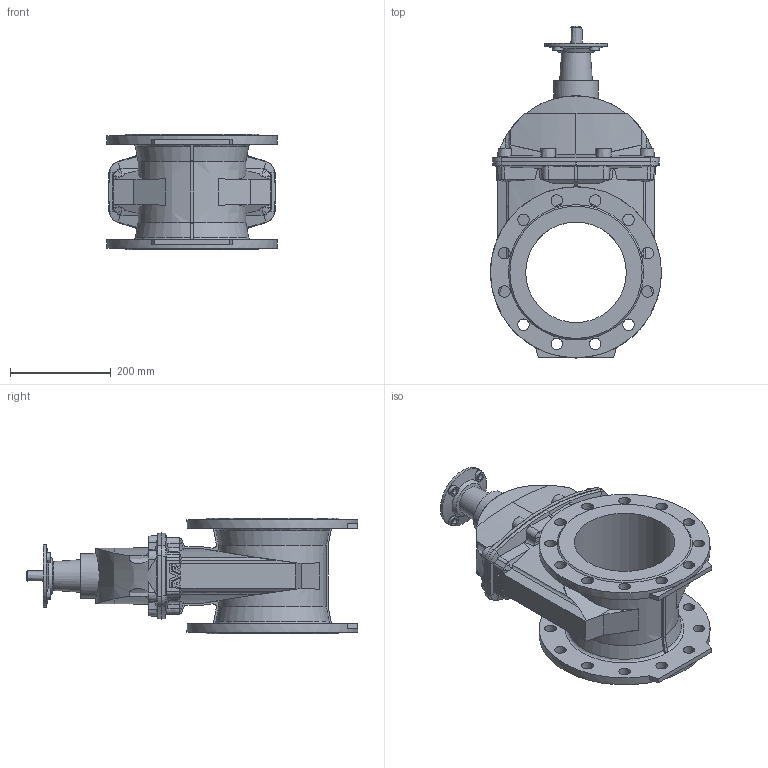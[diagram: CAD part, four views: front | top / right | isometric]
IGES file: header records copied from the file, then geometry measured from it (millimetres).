
Start section: SolidWorks IGES file using analytic representation for surfaces
Global section: file name: \\avksan2\techshare\PBM outline export from Enovia\O_15_42_DN200_X1XXX099_AA0.igs; native system: SolidWorks 2012; preprocessor: SolidWorks 2012; author: pbm; date: 170310.094417; units: inch
Bounding box: 340 x 660 x 230 mm (x, y, z)
Surface area: 855735.1 mm2 (no closed solid volume)
Topology: 0 solids, 0 shells, 399 faces, 2218 edges, 2117 vertices
Faces by surface type: revolution 228, bspline 171
